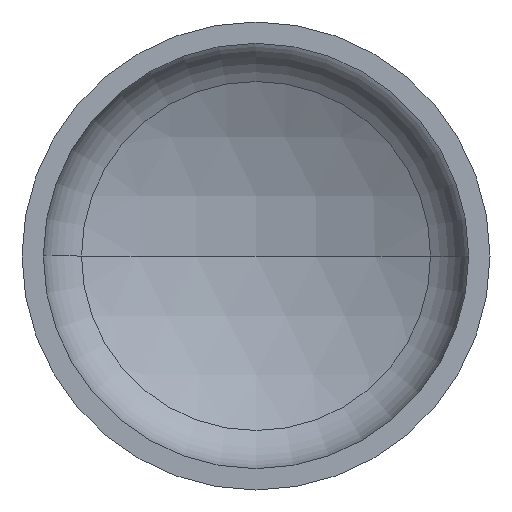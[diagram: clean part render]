
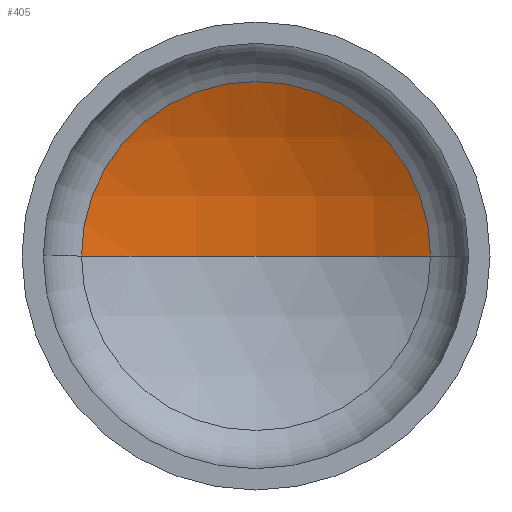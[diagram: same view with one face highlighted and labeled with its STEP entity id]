
A CAD part, front view. The second image highlights one B-rep face of the part: STEP entity #405.
In plain terms, the highlighted spherical face has radius 1440 mm.
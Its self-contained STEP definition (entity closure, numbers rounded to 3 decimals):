
#10 = AXIS2_PLACEMENT_3D ( 'NONE', #113, #119, #18 ) ;
#13 = VERTEX_POINT ( 'NONE', #368 ) ;
#18 = DIRECTION ( 'NONE',  ( -1., 0., 0. ) ) ;
#27 = EDGE_LOOP ( 'NONE', ( #116, #61, #170 ) ) ;
#61 = ORIENTED_EDGE ( 'NONE', *, *, #371, .T. ) ;
#89 = AXIS2_PLACEMENT_3D ( 'NONE', #281, #401, #157 ) ;
#99 = AXIS2_PLACEMENT_3D ( 'NONE', #199, #201, #216 ) ;
#107 = VERTEX_POINT ( 'NONE', #256 ) ;
#113 = CARTESIAN_POINT ( 'NONE',  ( 0., -930.716, 0. ) ) ;
#116 = ORIENTED_EDGE ( 'NONE', *, *, #360, .F. ) ;
#119 = DIRECTION ( 'NONE',  ( 0., 0., -1. ) ) ;
#157 = DIRECTION ( 'NONE',  ( 1., 0., 0. ) ) ;
#170 = ORIENTED_EDGE ( 'NONE', *, *, #202, .T. ) ;
#176 = DIRECTION ( 'NONE',  ( -1., 0., 0. ) ) ;
#184 = VERTEX_POINT ( 'NONE', #346 ) ;
#187 = CIRCLE ( 'NONE', #89, 1440. ) ;
#199 = CARTESIAN_POINT ( 'NONE',  ( 0., 343.302, 0. ) ) ;
#201 = DIRECTION ( 'NONE',  ( 0., -1., 0. ) ) ;
#202 = EDGE_CURVE ( 'NONE', #184, #13, #280, .T. ) ;
#214 = CARTESIAN_POINT ( 'NONE',  ( 0., -930.716, 0. ) ) ;
#216 = DIRECTION ( 'NONE',  ( 1., 0., 0. ) ) ;
#225 = AXIS2_PLACEMENT_3D ( 'NONE', #214, #333, #176 ) ;
#226 = FACE_OUTER_BOUND ( 'NONE', #27, .T. ) ;
#256 = CARTESIAN_POINT ( 'NONE',  ( 0., 509.284, 0. ) ) ;
#280 = CIRCLE ( 'NONE', #99, 671.176 ) ;
#281 = CARTESIAN_POINT ( 'NONE',  ( 0., -930.716, 0. ) ) ;
#307 = CIRCLE ( 'NONE', #10, 1440. ) ;
#333 = DIRECTION ( 'NONE',  ( 0., 0., -1. ) ) ;
#346 = CARTESIAN_POINT ( 'NONE',  ( 671.176, 343.302, 0. ) ) ;
#360 = EDGE_CURVE ( 'NONE', #107, #13, #187, .T. ) ;
#368 = CARTESIAN_POINT ( 'NONE',  ( -671.176, 343.302, 0. ) ) ;
#371 = EDGE_CURVE ( 'NONE', #107, #184, #307, .T. ) ;
#401 = DIRECTION ( 'NONE',  ( 0., 0., 1. ) ) ;
#405 = ADVANCED_FACE ( 'NONE', ( #226 ), #409, .F. ) ;
#409 = SPHERICAL_SURFACE ( 'NONE', #225, 1440. ) ;
